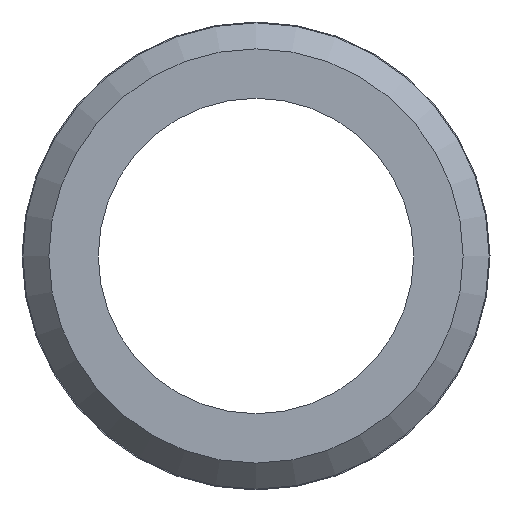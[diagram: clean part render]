
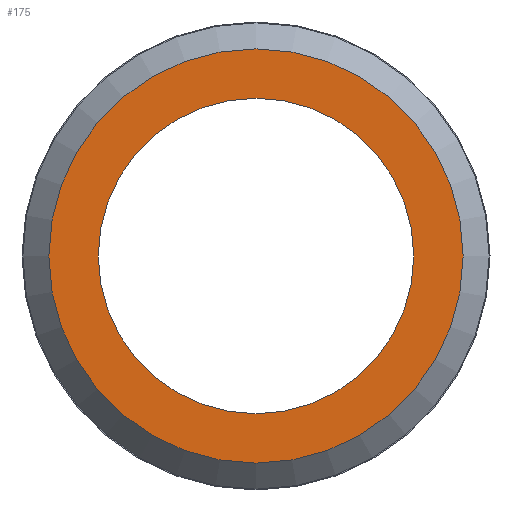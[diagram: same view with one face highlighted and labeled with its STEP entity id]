
A CAD part, front view. The second image highlights one B-rep face of the part: STEP entity #175.
In plain terms, the highlighted planar face has unit normal (0, -1, 0).
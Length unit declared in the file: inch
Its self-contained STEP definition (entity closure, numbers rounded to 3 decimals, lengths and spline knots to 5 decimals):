
#15=FACE_BOUND('',#40,.T.);
#19=PLANE('',#204);
#29=FACE_OUTER_BOUND('',#39,.T.);
#39=EDGE_LOOP('',(#134));
#40=EDGE_LOOP('',(#135,#136));
#63=CIRCLE('',#198,0.239);
#68=CIRCLE('',#205,0.182);
#69=CIRCLE('',#206,0.182);
#81=VERTEX_POINT('',#291);
#86=VERTEX_POINT('',#305);
#87=VERTEX_POINT('',#306);
#99=EDGE_CURVE('',#81,#81,#63,.T.);
#106=EDGE_CURVE('',#86,#87,#68,.T.);
#107=EDGE_CURVE('',#87,#86,#69,.T.);
#134=ORIENTED_EDGE('',*,*,#99,.F.);
#135=ORIENTED_EDGE('',*,*,#106,.F.);
#136=ORIENTED_EDGE('',*,*,#107,.F.);
#175=ADVANCED_FACE('',(#29,#15),#19,.T.);
#198=AXIS2_PLACEMENT_3D('',#292,#229,#230);
#204=AXIS2_PLACEMENT_3D('',#304,#243,#244);
#205=AXIS2_PLACEMENT_3D('',#307,#245,#246);
#206=AXIS2_PLACEMENT_3D('',#308,#247,#248);
#229=DIRECTION('center_axis',(0.,1.,0.));
#230=DIRECTION('ref_axis',(0.,0.,1.));
#243=DIRECTION('center_axis',(0.,-1.,0.));
#244=DIRECTION('ref_axis',(0.,0.,-1.));
#245=DIRECTION('center_axis',(0.,-1.,0.));
#246=DIRECTION('ref_axis',(1.,0.,0.));
#247=DIRECTION('center_axis',(0.,-1.,0.));
#248=DIRECTION('ref_axis',(1.,0.,0.));
#291=CARTESIAN_POINT('',(0.,0.,-0.239));
#292=CARTESIAN_POINT('Origin',(0.,0.,0.));
#304=CARTESIAN_POINT('Origin',(0.,0.,-0.182));
#305=CARTESIAN_POINT('',(0.,0.,-0.182));
#306=CARTESIAN_POINT('',(0.,0.,0.182));
#307=CARTESIAN_POINT('Origin',(0.,0.,0.));
#308=CARTESIAN_POINT('Origin',(0.,0.,0.));
